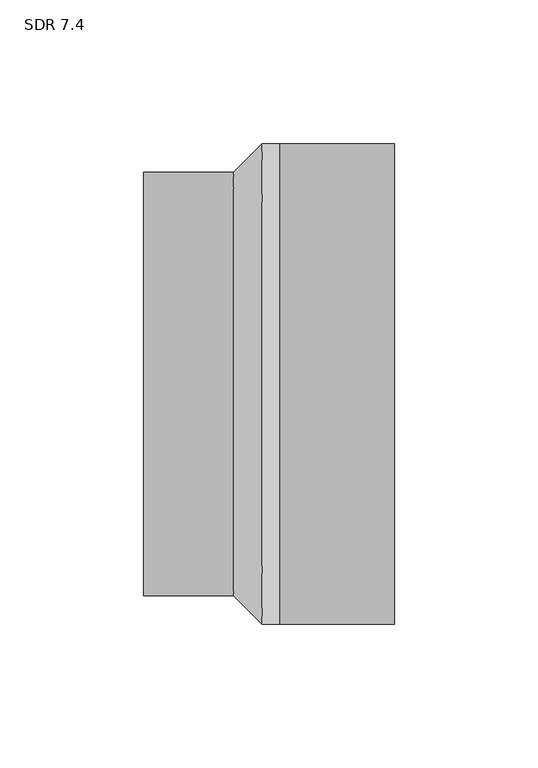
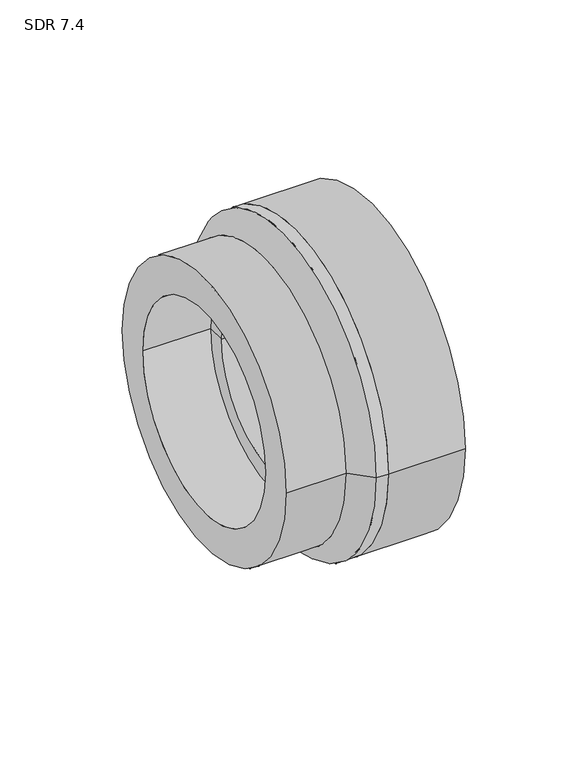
"""IFC4 building model written with IfcOpenShell, lengths in millimetres: pipe fitting geometry, Aquatherm - Reducing Coupling Combined - METRIC : SDR 7.4."""

import ifcopenshell
import ifcopenshell.guid

model = None  # the IFC model being written
_history = None  # IfcOwnerHistory: only IFC2X3 demands one
_inside = {}  # id of a spatial element -> (the spatial element, [elements in it])
_under = {}  # id of a project, library or spatial element -> (it, [spatial elements below it])
_declared = {}  # id of a project -> (the project, [libraries it declares])
_typed = {}  # id of a type object -> (the type object, [elements of that type])
_made_of = {}  # id of a material, layer set ... -> (it, [elements and type objects made of it])


def new_model(schema):
    """Start an empty IFC model of exactly this schema.

    Asked for "IFC4X3", IfcOpenShell would pick the latest addendum, in which some entities
    have other attributes; the version numbers below select the first issue.
    IFC2X3 requires an IfcOwnerHistory on every rooted entity: one is made here for all.
    """
    global model, _history
    if schema == "IFC4X3":
        model = ifcopenshell.file(schema_version=(4, 3, 0, 0))
    else:
        model = ifcopenshell.file(schema=schema)
    _inside.clear()
    _under.clear()
    _declared.clear()
    _typed.clear()
    _made_of.clear()
    _history = None
    if model.schema == "IFC2X3":
        org = make("IfcOrganization", Name="unknown")
        user = make(
            "IfcPersonAndOrganization",
            ThePerson=make("IfcPerson", FamilyName="unknown"),
            TheOrganization=org,
        )
        app = make(
            "IfcApplication",
            ApplicationDeveloper=org,
            Version="unknown",
            ApplicationFullName="unknown",
            ApplicationIdentifier="unknown",
        )
        _history = make(
            "IfcOwnerHistory",
            OwningUser=user,
            OwningApplication=app,
            ChangeAction="ADDED",
            CreationDate=0,
        )
    return model


def make(cls, **values):
    """One entity of the class cls with the attributes given. An attribute that is None is left unset."""
    return model.create_entity(
        cls, **{name: value for name, value in values.items() if value is not None}
    )


def rooted(cls, **values):
    """An entity with a GlobalId (a new one), such as an element, a storey or a relation."""
    return make(cls, GlobalId=ifcopenshell.guid.new(), OwnerHistory=_history, **values)


def si_unit(unit_type, name, prefix=None):
    """IfcSIUnit, for example si_unit("LENGTHUNIT", "METRE", prefix="MILLI")."""
    return make("IfcSIUnit", UnitType=unit_type, Prefix=prefix, Name=name)


def assignment(units):
    """IfcUnitAssignment: the units of a project."""
    return None if units is None else make("IfcUnitAssignment", Units=units)


def point(xyz):
    """IfcCartesianPoint."""
    return None if xyz is None else make("IfcCartesianPoint", Coordinates=xyz)


def direction(xyz):
    """IfcDirection."""
    return None if xyz is None else make("IfcDirection", DirectionRatios=xyz)


def frame(location, z_axis=None, x_axis=None):
    """IfcAxis2Placement3D, a coordinate frame: its origin and axes. An axis left out is left unset."""
    return make(
        "IfcAxis2Placement3D",
        Location=point(location),
        Axis=direction(z_axis),
        RefDirection=direction(x_axis),
    )


def frame_2d(location, x_axis=None):
    """IfcAxis2Placement2D, a coordinate frame in the plane: its origin and x axis."""
    return make(
        "IfcAxis2Placement2D", Location=point(location), RefDirection=direction(x_axis)
    )


def origin():
    """The frame at (0, 0, 0) with its axes left unset."""
    return frame((0.0, 0.0, 0.0))


def origin_2d():
    """The frame at (0, 0) in the plane with its x axis left unset."""
    return frame_2d((0.0, 0.0))


def place(relative_to, where):
    """IfcLocalPlacement: puts the frame where relative to a parent placement (None: the world)."""
    return make(
        "IfcLocalPlacement", PlacementRelTo=relative_to, RelativePlacement=where
    )


def context(
    kind, dimensions, precision=None, world=None, true_north=None, identifier=None
):
    """IfcGeometricRepresentationContext, for example the 3D "Model" context."""
    return make(
        "IfcGeometricRepresentationContext",
        ContextIdentifier=identifier,
        ContextType=kind,
        CoordinateSpaceDimension=dimensions,
        Precision=precision,
        WorldCoordinateSystem=world,
        TrueNorth=true_north,
    )


def project(units=None, contexts=None):
    """IfcProject with its units and contexts."""
    return rooted(
        "IfcProject",
        Name="project",
        RepresentationContexts=contexts,
        UnitsInContext=assignment(units),
    )


def spatial(cls, under=None, at=None, **own):
    """A site, building, storey or space (cls), placed at a placement, below another one or the project."""
    s = rooted(cls, ObjectPlacement=at, **own)
    if under is not None:
        _under.setdefault(under.id(), (under, []))[1].append(s)
    return s


def polyline(points):
    """IfcPolyline through the points."""
    return make("IfcPolyline", Points=[point(p) for p in points])


def circle_curve(where, radius):
    """IfcCircle in the frame where."""
    return make("IfcCircle", Position=where, Radius=radius)


def trimmed(basis, trim1, trim2, sense, master):
    """IfcTrimmedCurve: the piece of a basis curve between two trims."""
    return make(
        "IfcTrimmedCurve",
        BasisCurve=basis,
        Trim1=trim1,
        Trim2=trim2,
        SenseAgreement=sense,
        MasterRepresentation=master,
    )


def segment(curve, same_sense, transition):
    """IfcCompositeCurveSegment."""
    return make(
        "IfcCompositeCurveSegment",
        Transition=transition,
        SameSense=same_sense,
        ParentCurve=curve,
    )


def composite_curve(segments, self_intersect=None):
    """IfcCompositeCurve: segments joined end to end."""
    return make("IfcCompositeCurve", Segments=segments, SelfIntersect=self_intersect)


def outline(outer, holes=None, kind="AREA"):
    """IfcArbitraryClosedProfileDef: a profile drawn as a closed curve; with holes, ...WithVoids."""
    if holes is None:
        return make("IfcArbitraryClosedProfileDef", ProfileType=kind, OuterCurve=outer)
    return make(
        "IfcArbitraryProfileDefWithVoids",
        ProfileType=kind,
        OuterCurve=outer,
        InnerCurves=holes,
    )


def extrude(swept, where, along, depth):
    """IfcExtrudedAreaSolid: the profile swept, set in the frame where, extruded along a direction by depth."""
    return make(
        "IfcExtrudedAreaSolid",
        SweptArea=swept,
        Position=where,
        ExtrudedDirection=direction(along),
        Depth=depth,
    )


def shape(context_of_items, identifier, shape_type, items):
    """IfcShapeRepresentation: the items that make up one representation, for example the "Body"."""
    return make(
        "IfcShapeRepresentation",
        ContextOfItems=context_of_items,
        RepresentationIdentifier=identifier,
        RepresentationType=shape_type,
        Items=items,
    )


def source(mapping_origin, context_of_items, identifier, shape_type, items):
    """IfcRepresentationMap: a shape defined once, which mapped items show again and again."""
    return make(
        "IfcRepresentationMap",
        MappingOrigin=mapping_origin,
        MappedRepresentation=shape(context_of_items, identifier, shape_type, items),
    )


def transform(
    local_origin,
    x_axis=None,
    y_axis=None,
    z_axis=None,
    scale=None,
    scale2=None,
    scale3=None,
    uniform=True,
):
    """IfcCartesianTransformationOperator3D, or its non-uniform kind. x_axis, y_axis, z_axis: its Axis1, 2, 3."""
    if uniform:
        return make(
            "IfcCartesianTransformationOperator3D",
            Axis1=direction(x_axis),
            Axis2=direction(y_axis),
            LocalOrigin=point(local_origin),
            Scale=scale,
            Axis3=direction(z_axis),
        )
    return make(
        "IfcCartesianTransformationOperator3DnonUniform",
        Axis1=direction(x_axis),
        Axis2=direction(y_axis),
        LocalOrigin=point(local_origin),
        Scale=scale,
        Axis3=direction(z_axis),
        Scale2=scale2,
        Scale3=scale3,
    )


def mapped(mapping_source, mapping_target):
    """IfcMappedItem: shows the shape of a source again, moved by a transform."""
    return make(
        "IfcMappedItem", MappingSource=mapping_source, MappingTarget=mapping_target
    )


def made_of(thing, what):
    """Note that an element or type object is made of a material, layer set ...; save() writes the relation."""
    if what is not None:
        _made_of.setdefault(what.id(), (what, []))[1].append(thing)
    return thing


def element(
    cls,
    number,
    at=None,
    inside=None,
    cuts=None,
    type_object=None,
    material=None,
    context=None,
    identifier="Body",
    shape_type=None,
    held_by="IfcProductDefinitionShape",
    body=None,
    shapes=None,
    **own,
):
    """One element of the class cls, such as IfcWall. Its Tag is "e" and its number.

    at: its placement. inside: the storey or other place that contains it. cuts: it is an
    opening in that element (IfcRelVoidsElement). A single representation is given by context,
    identifier, shape_type and body (its items); several are given by shapes. held_by: the class
    of the entity that holds the representations. save() writes the other relations.
    """
    e = rooted(cls, Tag="e%d" % number, ObjectPlacement=at, **own)
    if body is not None:
        shapes = [shape(context, identifier, shape_type, body)]
    if shapes is not None:
        e.Representation = make(held_by, Representations=shapes)
    if inside is not None:
        _inside.setdefault(inside.id(), (inside, []))[1].append(e)
    if cuts is not None:
        rooted(
            "IfcRelVoidsElement", RelatingBuildingElement=cuts, RelatedOpeningElement=e
        )
    if type_object is not None:
        _typed.setdefault(type_object.id(), (type_object, []))[1].append(e)
    return made_of(e, material)


def aggregate(whole, parts):
    """IfcRelAggregates: a whole, such as a stair, and the parts it consists of."""
    return rooted("IfcRelAggregates", RelatingObject=whole, RelatedObjects=parts)


def save(model, path):
    """Write the relations noted so far, then the file.

    IfcRelAggregates (storeys below a building ...), IfcRelContainedInSpatialStructure (elements
    in a storey), IfcRelDefinesByType, IfcRelAssociatesMaterial and IfcRelDeclares: one each for
    every whole, place, type object, material and project.
    """
    for whole, parts in _under.values():
        aggregate(whole, parts)
    for where, things in _inside.values():
        rooted(
            "IfcRelContainedInSpatialStructure",
            RelatedElements=things,
            RelatingStructure=where,
        )
    for kind, things in _typed.values():
        rooted("IfcRelDefinesByType", RelatedObjects=things, RelatingType=kind)
    for what, things in _made_of.values():
        rooted("IfcRelAssociatesMaterial", RelatedObjects=things, RelatingMaterial=what)
    for by, libraries in _declared.values():
        rooted("IfcRelDeclares", RelatingContext=by, RelatedDefinitions=libraries)
    model.write(path)


def plane_surface(at):
    """IfcPlane: the flat surface through the origin of the frame at, square to its z axis."""
    return make("IfcPlane", Position=at)


def cylinder_surface(at, radius):
    """IfcCylindricalSurface: all points at the distance radius from the z axis of the frame at."""
    return make("IfcCylindricalSurface", Position=at, Radius=radius)


def revolved_surface(curve, axis_point, axis_direction):
    """IfcSurfaceOfRevolution: the curve turned about the line through axis_point along axis_direction."""
    return make(
        "IfcSurfaceOfRevolution",
        SweptCurve=make("IfcArbitraryOpenProfileDef", ProfileType="CURVE", Curve=curve),
        AxisPosition=make("IfcAxis1Placement", Location=point(axis_point), Axis=direction(axis_direction)),
    )


def advanced_brep(points, edges, surfaces, faces):
    """IfcAdvancedBrep: a solid bounded by faces that lie on surfaces and meet in shared edges.

    An edge is (start, end): straight between two places in points (the first is 0);
    or (start, end, curve); or (start, end, curve, False) where it runs against its curve.
    A face is (place in surfaces, loops), or (place, loops, False) where it looks against
    its surface's normal. A loop lists edges by number (the first is 1), with a minus sign
    where the edge is run from its end to its start. The first loop is the outer one.
    """
    corners = [point(p) for p in points]
    vertices = [make("IfcVertexPoint", VertexGeometry=c) for c in corners]
    made = []
    for start, end, *more in edges:
        made.append(
            make(
                "IfcEdgeCurve",
                EdgeStart=vertices[start],
                EdgeEnd=vertices[end],
                EdgeGeometry=more[0] if more else make("IfcPolyline", Points=[corners[start], corners[end]]),
                SameSense=more[1] if len(more) > 1 else True,
            )
        )
    hull = []
    for where, loops, *sense in faces:
        bounds = []
        for j, loop in enumerate(loops):
            ring = [make("IfcOrientedEdge", EdgeElement=made[abs(k) - 1], Orientation=k > 0) for k in loop]
            bounds.append(
                make(
                    "IfcFaceOuterBound" if j == 0 else "IfcFaceBound",
                    Bound=make("IfcEdgeLoop", EdgeList=ring),
                    Orientation=True,
                )
            )
        hull.append(make("IfcAdvancedFace", Bounds=bounds, FaceSurface=surfaces[where], SameSense=sense[0] if sense else True))
    return make("IfcAdvancedBrep", Outer=make("IfcClosedShell", CfsFaces=hull))


def sdr_7_4_06b1dd2b(model_context):
    return source(origin(), model_context, "Body", "SolidModel", [
        advanced_brep(
        [(-6.096, 45.21, 0.0), (-6.096, -45.21, 0.0), (6.096, -45.21, 0.0), (6.096, 45.21, 0.0), (6.096, -83.439, 0.0), (6.096, 83.439, 0.0), (0.0, -83.439, 0.0), (0.0, 83.439, 0.0), (-9.906, -73.533, 0.0), (-9.906, 73.533, 0.0), (-41.148, 73.533, 0.0), (-41.148, -73.533, 0.0), (-41.148, 54.991, 0.0), (-41.148, -54.991, 0.0), (-6.096, -54.991, 0.0), (-6.096, 54.991, 0.0)],
        [
            (0, 1, circle_curve(frame((-6.096, 0.0, 0.0), z_axis=(-1.0, 0.0, 0.0), x_axis=(0.0, -1.0, 0.0)), 45.21)),
            (1, 2),
            (2, 3, circle_curve(frame((6.096, 0.0, 0.0), z_axis=(1.0, 0.0, 0.0), x_axis=(0.0, -1.0, 0.0)), 45.21)),
            (3, 0),
            (1, 0, circle_curve(frame((-6.096, 0.0, 0.0), z_axis=(-1.0, 0.0, 0.0), x_axis=(0.0, -1.0, 0.0)), 45.21)),
            (3, 2, circle_curve(frame((6.096, 0.0, 0.0), z_axis=(1.0, 0.0, 0.0), x_axis=(0.0, -1.0, 0.0)), 45.21)),
            (2, 4),
            (4, 5, circle_curve(frame((6.096, 0.0, 0.0), z_axis=(1.0, 0.0, 0.0), x_axis=(0.0, -1.0, 0.0)), 83.439)),
            (5, 3),
            (5, 4, circle_curve(frame((6.096, 0.0, 0.0), z_axis=(1.0, 0.0, 0.0), x_axis=(0.0, -1.0, 0.0)), 83.439)),
            (4, 6),
            (6, 7, circle_curve(frame((0.0, 0.0, 0.0), z_axis=(1.0, 0.0, 0.0), x_axis=(0.0, -1.0, 0.0)), 83.439)),
            (7, 5),
            (7, 6, circle_curve(frame((0.0, 0.0, 0.0), z_axis=(1.0, 0.0, 0.0), x_axis=(0.0, -1.0, 0.0)), 83.439)),
            (6, 8),
            (8, 9, circle_curve(frame((-9.906, 0.0, 0.0), z_axis=(1.0, 0.0, 0.0), x_axis=(0.0, -1.0, 0.0)), 73.533)),
            (9, 7),
            (9, 8, circle_curve(frame((-9.906, 0.0, 0.0), z_axis=(1.0, 0.0, 0.0), x_axis=(0.0, -1.0, 0.0)), 73.533)),
            (10, 11, circle_curve(frame((-41.148, 0.0, 0.0), z_axis=(-1.0, 0.0, 0.0), x_axis=(0.0, -1.0, 0.0)), 73.533)),
            (11, 10, circle_curve(frame((-41.148, 0.0, 0.0), z_axis=(-1.0, 0.0, 0.0), x_axis=(0.0, -1.0, 0.0)), 73.533)),
            (12, 13, circle_curve(frame((-41.148, 0.0, 0.0), z_axis=(1.0, 0.0, 0.0), x_axis=(0.0, -1.0, 0.0)), 54.991)),
            (13, 12, circle_curve(frame((-41.148, 0.0, 0.0), z_axis=(1.0, 0.0, 0.0), x_axis=(0.0, -1.0, 0.0)), 54.991)),
            (13, 14),
            (14, 15, circle_curve(frame((-6.096, 0.0, 0.0), z_axis=(1.0, 0.0, 0.0), x_axis=(0.0, -1.0, 0.0)), 54.991)),
            (15, 12),
            (15, 14, circle_curve(frame((-6.096, 0.0, 0.0), z_axis=(1.0, 0.0, 0.0), x_axis=(0.0, -1.0, 0.0)), 54.991)),
            (10, 9),
            (8, 11),
            (0, 15),
            (14, 1),
        ],
        [
            revolved_surface(polyline([(6.096000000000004, -45.21, 0.0), (-6.096000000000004, -45.21, 0.0)]), (76.2, 0.0, 0.0), (1.0, 0.0, 0.0)),
            plane_surface(frame((6.096, 0.0, 0.0), z_axis=(1.0, 0.0, 0.0), x_axis=(0.0, -1.0, 0.0))),
            cylinder_surface(frame((76.2, 0.0, 0.0), z_axis=(1.0, 0.0, 0.0), x_axis=(0.0, -1.0, 0.0)), 83.439),
            revolved_surface(polyline([(-9.906, -73.533, 0.0), (0.0, -83.439, 0.0)]), (76.2, 0.0, 0.0), (1.0, 0.0, 0.0)),
            plane_surface(frame((-41.148, -54.991, 0.0), z_axis=(-1.0, 0.0, 0.0), x_axis=(0.0, 0.0, -1.0))),
            revolved_surface(polyline([(-6.096, -54.991, 0.0), (-41.14800000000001, -54.991, 0.0)]), (-6.096, 0.0, 0.0), (1.0, 0.0, 0.0)),
            cylinder_surface(frame((0.0, 0.0, 0.0), z_axis=(-1.0, 0.0, 0.0), x_axis=(0.0, -1.0, 0.0)), 73.533),
            plane_surface(frame((-6.096, 0.0, 0.0), z_axis=(-1.0, 0.0, 0.0), x_axis=(0.0, -1.0, 0.0))),
        ],
        [
            (0, [[1, 2, 3, 4]]),
            (0, [[-2, 5, -4, 6]]),
            (1, [[-3, 7, 8, 9]]),
            (1, [[-6, -9, 10, -7]]),
            (2, [[-8, 11, 12, 13]]),
            (2, [[-10, -13, 14, -11]]),
            (3, [[-12, 15, 16, 17]]),
            (3, [[-14, -17, 18, -15]]),
            (4, [[19, 20], [21, 22]]),
            (5, [[-22, 23, 24, 25]]),
            (5, [[-21, -25, 26, -23]]),
            (6, [[-19, 27, -16, 28]]),
            (6, [[-20, -28, -18, -27]]),
            (7, [[-1, 29, -24, 30]]),
            (7, [[-5, -30, -26, -29]]),
        ],
    ),
        extrude(outline(composite_curve([segment(trimmed(circle_curve(origin_2d(), 83.439), [point((83.439, 0.0))], [point((-83.439, 0.0))], False, "CARTESIAN"), True, "CONTINUOUS"), segment(trimmed(circle_curve(origin_2d(), 83.439), [point((-83.439, 0.0))], [point((83.439, 0.0))], False, "CARTESIAN"), True, "CONTINUOUS")], self_intersect=False), holes=[composite_curve([segment(trimmed(circle_curve(origin_2d(), 62.484), [point((62.484, 0.0))], [point((-62.484, 0.0))], True, "CARTESIAN"), True, "CONTINUOUS"), segment(trimmed(circle_curve(origin_2d(), 62.484), [point((-62.484, 0.0))], [point((62.484, 0.0))], True, "CARTESIAN"), True, "CONTINUOUS")], self_intersect=False)]), frame((6.096, 0.0, 0.0), z_axis=(1.0, 0.0, 0.0), x_axis=(0.0, 1.0, 0.0)), (0.0, 0.0, 1.0), 39.878),
    ])


if __name__ == "__main__":
    model = new_model("IFC4")
    model_context = context("Model", 3, world=origin())
    ifc_project = project(units=[si_unit("LENGTHUNIT", "METRE", prefix="MILLI")], contexts=[model_context])
    site = spatial("IfcSite", under=ifc_project)
    building = spatial("IfcBuilding", under=site)
    placement = place(None, origin())
    sdr_7_4_shape = sdr_7_4_06b1dd2b(model_context)
    element("IfcPipeFitting", 1, ObjectType="Aquatherm - Reducing Coupling Combined - METRIC : SDR 7.4", at=placement, inside=building, context=model_context, shape_type="MappedRepresentation", body=[
        mapped(sdr_7_4_shape, transform((0.0, 0.0, 0.0), x_axis=(1.0, 0.0, 0.0), y_axis=(0.0, 1.0, 0.0), z_axis=(0.0, 0.0, 1.0))),
    ])
    save(model, "model.ifc")
